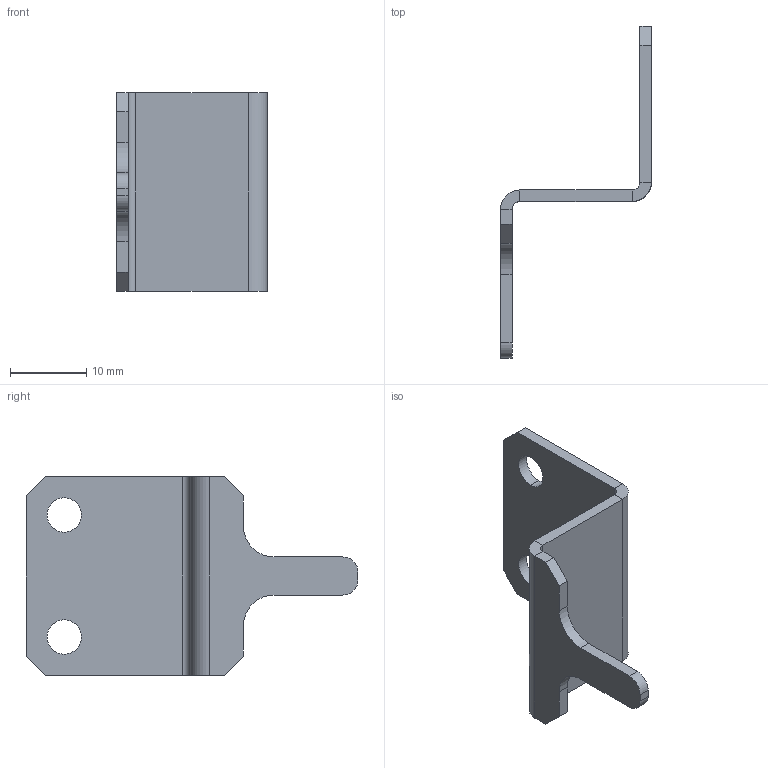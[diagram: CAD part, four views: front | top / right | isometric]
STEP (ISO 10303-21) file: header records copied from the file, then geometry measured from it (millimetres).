
FILE_DESCRIPTION (( 'STEP AP214' ), '1' );
FILE_NAME ('GZ30.10_V1感应板.STEP', '2021-06-04T06:02:48', ( '微软中国' ), ( 'Microsoft' ), 'SwSTEP 2.0', 'SolidWorks 2017', '' );
FILE_SCHEMA (( 'AUTOMOTIVE_DESIGN' ));
Length unit declared in the file: millimetre
Products named in the file (1): GZ30.10_V1覜茼啣
Bounding box: 19.75 x 43.5 x 26 mm (x, y, z)
Volume: 1818.4 mm3; surface area: 2709.2 mm2
Topology: 1 solids, 1 shells, 38 faces, 92 edges, 56 vertices
Faces by surface type: plane 26, cylinder 12
Entity records: 1134 total; most frequent: DIRECTION 194, CARTESIAN_POINT 187, ORIENTED_EDGE 184, EDGE_CURVE 92, VECTOR 68, LINE 68, AXIS2_PLACEMENT_3D 63, VERTEX_POINT 56
